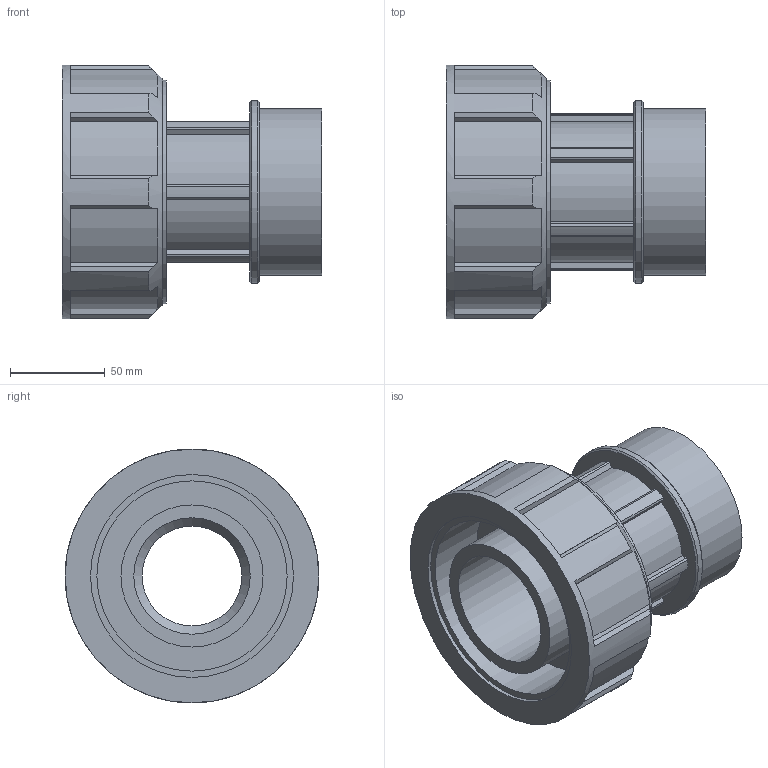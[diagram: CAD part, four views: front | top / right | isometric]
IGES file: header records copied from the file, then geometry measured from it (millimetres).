
Global section: file name: 0725060750300A.ipt; native system: Autodesk Inventor 2015; preprocessor: unknown; author: KIM; date: 20170608.042222; units: millimetre
Bounding box: 137 x 134 x 134 mm (x, y, z)
Volume: 619940.6 mm3; surface area: 126790.7 mm2
Topology: 1 solids, 1 shells, 108 faces, 300 edges, 202 vertices
Faces by surface type: plane 74, cylinder 25, revolution 6, cone 3
Full cylindrical faces by diameter (mm): 75 x1, 87.884 x1, 96.672 x1, 117.92 x1, 134 x1
